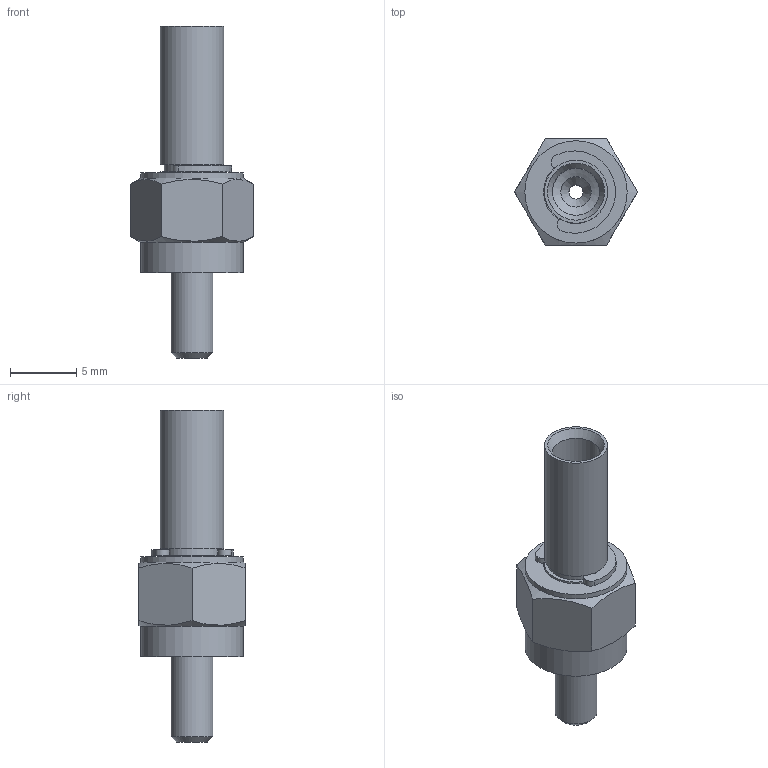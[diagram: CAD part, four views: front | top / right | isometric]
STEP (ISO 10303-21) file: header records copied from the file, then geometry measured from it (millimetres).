
FILE_DESCRIPTION(/* description */ ('Alibre Inc.'),/* implementation_level */ '2;1');
FILE_NAME(/* name */ 'export-E20F4A1F-6E59-4D3A-91D7-F17877F6879C',/* time_stamp */ '2026-05-27T10:30:22-07:00',/* author */ (''),/* organization */ (''),/* preprocessor_version */ 'ST-DEVELOPER v17',/* originating_system */ 'Alibre',/* authorisation */ '');
FILE_SCHEMA (('CONFIG_CONTROL_DESIGN'));
Length unit declared in the file: centimetre
Products named in the file (4): 51 0059
Bounding box: 9.24 x 8 x 24.99 mm (x, y, z)
Volume: 415.1 mm3; surface area: 1050.2 mm2
Topology: 3 solids, 3 shells, 47 faces, 98 edges, 64 vertices
Faces by surface type: cylinder 19, plane 19, cone 7, bspline 2
Full cylindrical faces by diameter (mm): 1.069 x1, 2.286 x1, 3.15 x1, 3.545 x1, 4.191 x1, 4.572 x1, 4.75 x2, 4.877 x1, 5.486 x1, 6.43 x1, 7.7 x2
Entity records: 2521 total; most frequent: CARTESIAN_POINT 1283, DIRECTION 169, ORIENTED_EDGE 142, AXIS2_PLACEMENT_3D 89, EDGE_LOOP 77, FACE_BOUND 77, EDGE_CURVE 71, VERTEX_POINT 56
